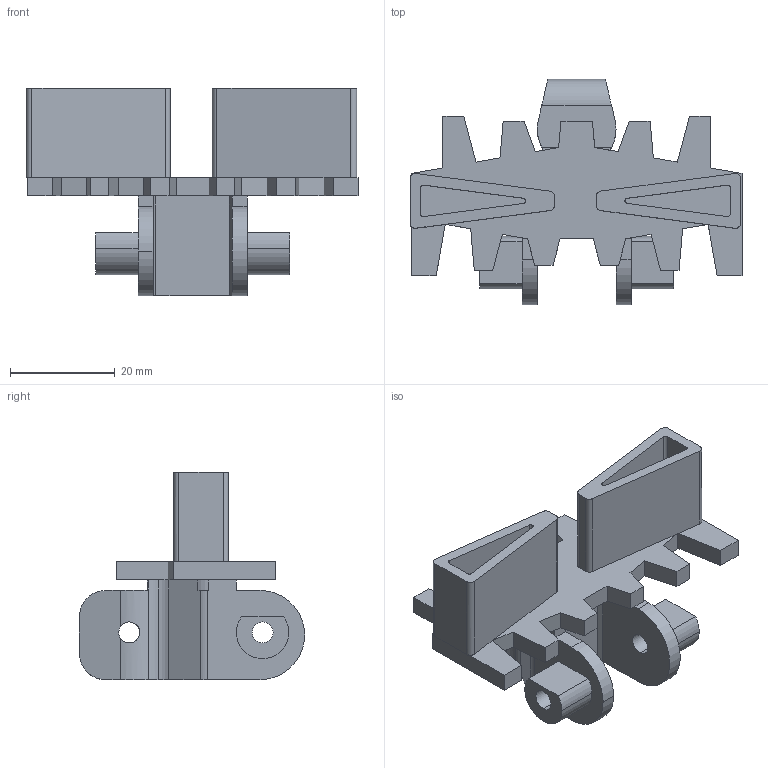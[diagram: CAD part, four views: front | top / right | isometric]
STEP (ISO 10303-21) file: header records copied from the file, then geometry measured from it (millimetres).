
FILE_DESCRIPTION (( 'STEP AP214' ), '1' );
FILE_NAME ('FSCT-5A17.STEP', '2011-04-14T11:10:26', ( '.' ), ( '' ), 'SwSTEP 2.0', 'SolidWorks 2010', '' );
FILE_SCHEMA (( 'AUTOMOTIVE_DESIGN' ));
Length unit declared in the file: millimetre
Products named in the file (1): FSCT-5A17
Bounding box: 63.25 x 42.9 x 39.5 mm (x, y, z)
Volume: 17941.8 mm3; surface area: 11032.7 mm2
Topology: 1 solids, 1 shells, 142 faces, 404 edges, 266 vertices
Faces by surface type: plane 98, cylinder 44
Entity records: 5739 total; most frequent: CARTESIAN_POINT 927, ORIENTED_EDGE 808, DIRECTION 760, EDGE_CURVE 404, VECTOR 306, LINE 306, VERTEX_POINT 266, AXIS2_PLACEMENT_3D 227
